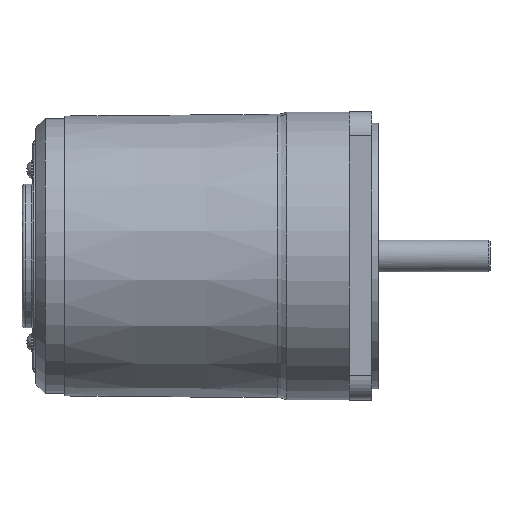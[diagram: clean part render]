
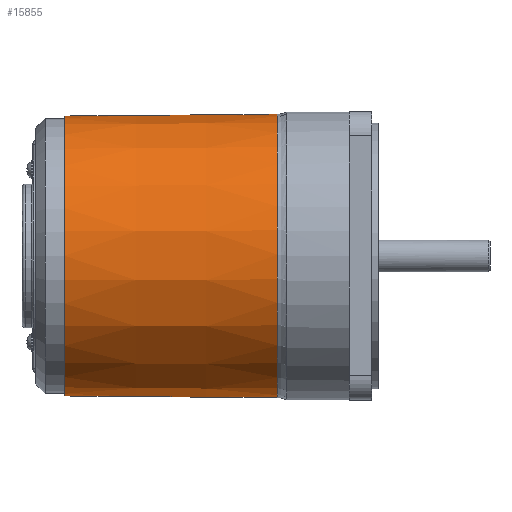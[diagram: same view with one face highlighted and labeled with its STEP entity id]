
A CAD part, top view. The second image highlights one B-rep face of the part: STEP entity #15855.
In plain terms, the highlighted conical face has half-angle 0.48 degrees and reference radius 44.029 mm.
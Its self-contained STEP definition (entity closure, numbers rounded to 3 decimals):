
#172=B_SPLINE_CURVE_WITH_KNOTS('',3,(#24637,#24638,#24639,#24640),
 .UNSPECIFIED.,.F.,.F.,(4,4),(3.256,3.306),
 .UNSPECIFIED.);
#173=B_SPLINE_CURVE_WITH_KNOTS('',3,(#24642,#24643,#24644,#24645),
 .UNSPECIFIED.,.F.,.F.,(4,4),(-3.256,0.),.UNSPECIFIED.);
#177=B_SPLINE_CURVE_WITH_KNOTS('',3,(#24724,#24725,#24726,#24727),
 .UNSPECIFIED.,.F.,.F.,(4,4),(-6.954,-3.698),
 .UNSPECIFIED.);
#178=B_SPLINE_CURVE_WITH_KNOTS('',3,(#24728,#24729,#24730,#24731),
 .UNSPECIFIED.,.F.,.F.,(4,4),(3.648,3.698),
 .UNSPECIFIED.);
#284=CONICAL_SURFACE('',#16888,44.029,0.48);
#692=FACE_BOUND('',#2661,.T.);
#936=CIRCLE('',#16872,44.031);
#944=CIRCLE('',#16889,44.308);
#945=CIRCLE('',#16890,43.75);
#1703=FACE_OUTER_BOUND('',#2660,.T.);
#2660=EDGE_LOOP('',(#10636,#10637,#10638,#10639,#10640,#10641));
#2661=EDGE_LOOP('',(#10642));
#6395=VERTEX_POINT('',#24287);
#6401=VERTEX_POINT('',#24401);
#6416=VERTEX_POINT('',#24636);
#6417=VERTEX_POINT('',#24641);
#6422=VERTEX_POINT('',#24721);
#6423=VERTEX_POINT('',#24723);
#6427=VERTEX_POINT('',#24784);
#7999=EDGE_CURVE('',#6395,#6401,#936,.T.);
#8022=EDGE_CURVE('',#6416,#6401,#172,.T.);
#8023=EDGE_CURVE('',#6416,#6417,#173,.T.);
#8033=EDGE_CURVE('',#6422,#6423,#177,.T.);
#8034=EDGE_CURVE('',#6395,#6423,#178,.T.);
#8041=EDGE_CURVE('',#6417,#6422,#944,.T.);
#8042=EDGE_CURVE('',#6427,#6427,#945,.T.);
#10636=ORIENTED_EDGE('',*,*,#8034,.T.);
#10637=ORIENTED_EDGE('',*,*,#8033,.F.);
#10638=ORIENTED_EDGE('',*,*,#8041,.F.);
#10639=ORIENTED_EDGE('',*,*,#8023,.F.);
#10640=ORIENTED_EDGE('',*,*,#8022,.T.);
#10641=ORIENTED_EDGE('',*,*,#7999,.F.);
#10642=ORIENTED_EDGE('',*,*,#8042,.T.);
#15855=ADVANCED_FACE('',(#1703,#692),#284,.T.);
#16872=AXIS2_PLACEMENT_3D('',#24402,#18886,#18887);
#16888=AXIS2_PLACEMENT_3D('',#24782,#18930,#18931);
#16889=AXIS2_PLACEMENT_3D('',#24783,#18932,#18933);
#16890=AXIS2_PLACEMENT_3D('',#24785,#18934,#18935);
#18886=DIRECTION('center_axis',(1.,0.,0.));
#18887=DIRECTION('ref_axis',(0.,0.,-1.));
#18930=DIRECTION('center_axis',(1.,0.,0.));
#18931=DIRECTION('ref_axis',(0.,1.,0.));
#18932=DIRECTION('center_axis',(1.,0.,0.));
#18933=DIRECTION('ref_axis',(0.,1.,0.));
#18934=DIRECTION('center_axis',(1.,0.,0.));
#18935=DIRECTION('ref_axis',(0.,1.,0.));
#24287=CARTESIAN_POINT('',(42.504,-29.21,-32.947));
#24401=CARTESIAN_POINT('',(42.504,29.21,-32.947));
#24402=CARTESIAN_POINT('Origin',(42.504,0.,
0.));
#24636=CARTESIAN_POINT('',(43.,29.21,-32.952));
#24637=CARTESIAN_POINT('Ctrl Pts',(43.,29.21,-32.952));
#24638=CARTESIAN_POINT('Ctrl Pts',(42.835,29.21,-32.95));
#24639=CARTESIAN_POINT('Ctrl Pts',(42.669,29.21,-32.949));
#24640=CARTESIAN_POINT('Ctrl Pts',(42.504,29.21,-32.947));
#24641=CARTESIAN_POINT('',(75.559,29.222,-33.306));
#24642=CARTESIAN_POINT('Ctrl Pts',(43.,29.21,-32.952));
#24643=CARTESIAN_POINT('Ctrl Pts',(53.853,29.214,-33.07));
#24644=CARTESIAN_POINT('Ctrl Pts',(64.706,29.218,-33.188));
#24645=CARTESIAN_POINT('Ctrl Pts',(75.559,29.222,-33.306));
#24721=CARTESIAN_POINT('',(75.559,-29.222,-33.306));
#24723=CARTESIAN_POINT('',(43.,-29.21,-32.952));
#24724=CARTESIAN_POINT('Ctrl Pts',(75.559,-29.222,-33.306));
#24725=CARTESIAN_POINT('Ctrl Pts',(64.706,-29.218,-33.188));
#24726=CARTESIAN_POINT('Ctrl Pts',(53.853,-29.214,-33.07));
#24727=CARTESIAN_POINT('Ctrl Pts',(43.,-29.21,-32.952));
#24728=CARTESIAN_POINT('Ctrl Pts',(42.504,-29.21,-32.947));
#24729=CARTESIAN_POINT('Ctrl Pts',(42.669,-29.21,-32.949));
#24730=CARTESIAN_POINT('Ctrl Pts',(42.835,-29.21,-32.95));
#24731=CARTESIAN_POINT('Ctrl Pts',(43.,-29.21,-32.952));
#24782=CARTESIAN_POINT('Origin',(42.279,0.,
0.));
#24783=CARTESIAN_POINT('Origin',(75.559,0.,
0.));
#24784=CARTESIAN_POINT('',(9.,43.75,0.));
#24785=CARTESIAN_POINT('Origin',(9.,0.,
0.));
